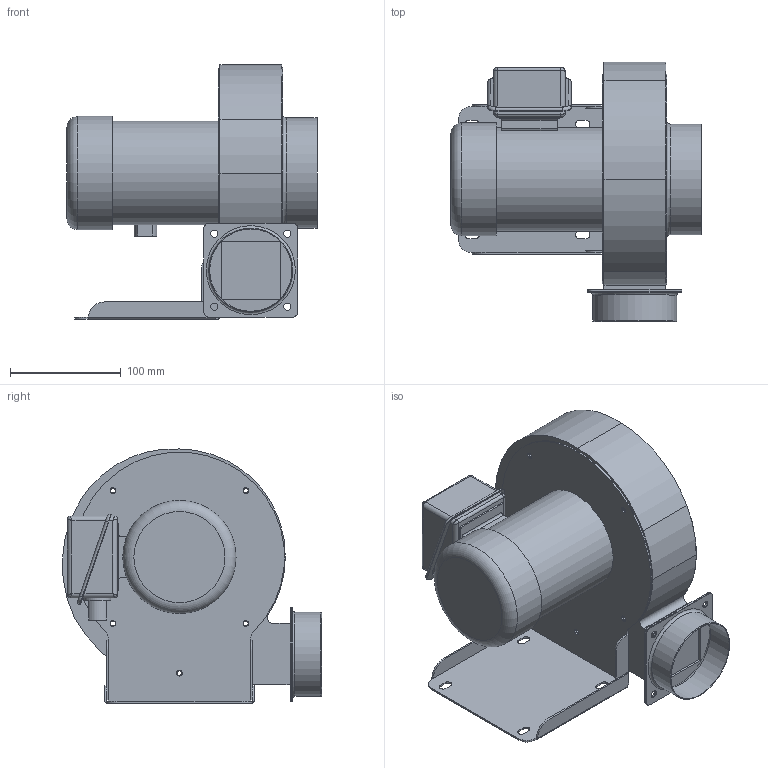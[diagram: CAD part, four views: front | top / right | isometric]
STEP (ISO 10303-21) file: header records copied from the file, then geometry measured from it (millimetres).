
FILE_DESCRIPTION(/* description */ ('Unknown'),/* implementation_level */ '2;1');
FILE_NAME(/* name */ 'CYT150A2P2a-EG 型錄',/* time_stamp */ '2026-05-14T16:09:48+08:00',/* author */ ('Unknown'),/* organization */ ('Unknown'),/* preprocessor_version */ 'ST-DEVELOPER v20',/* originating_system */ 'Solid Edge',/* authorisation */ 'Unknown');
FILE_SCHEMA (('AUTOMOTIVE_DESIGN {1 0 10303 214 3 1 1}'));
Length unit declared in the file: millimetre
Products named in the file (6): CYT150A2P2a-EG 型; CYT150-01; CYT150-04-4''; CY100-05; CYT150-07; JM120A2P1a-EG & JM120A2P2a-EG & JM1202P3x-EG ､ﾘｿ
Assembly tree (4 placements, depth 2):
  CYT150A2P2a-EG 型
    CYT150-01
    CY100-05
    CYT150-07
    JM120A2P1a-EG & JM120A2P2a-EG & JM1202P3x-EG ､ﾘｿ
  CYT150-04-4''
Bounding box: 226.2 x 234.25 x 229.7 mm (x, y, z)
Volume: 2321550 mm3; surface area: 389518.7 mm2
Topology: 5 solids, 5 shells, 277 faces, 698 edges, 442 vertices
Faces by surface type: cylinder 138, plane 121, torus 10, bspline 8
Full cylindrical faces by diameter (mm): 4.2 x4, 4.3 x5, 5.2 x5, 5.5 x4, 6.5 x8, 11 x1, 11.6 x1, 13.5 x1, 20 x1, 24 x1, 74.4 x1, 76 x1, 93.6 x1, 98 x1, 100 x1, 102.4 x1, 155 x1, 190 x1
Entity records: 8616 total; most frequent: CARTESIAN_POINT 1776, DIRECTION 1443, ORIENTED_EDGE 1272, EDGE_CURVE 636, AXIS2_PLACEMENT_3D 548, VERTEX_POINT 433, EDGE_LOOP 413, FACE_BOUND 413
